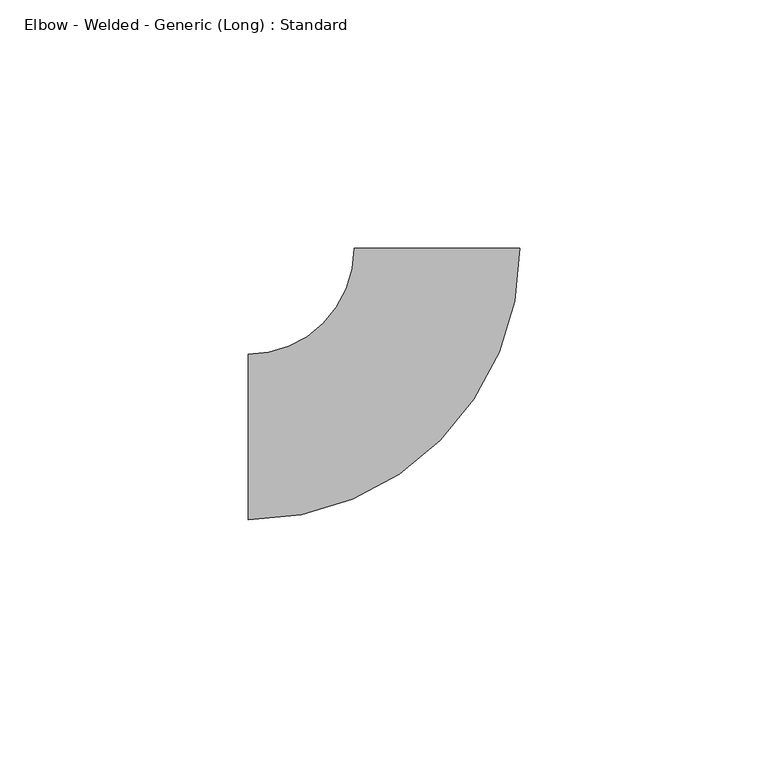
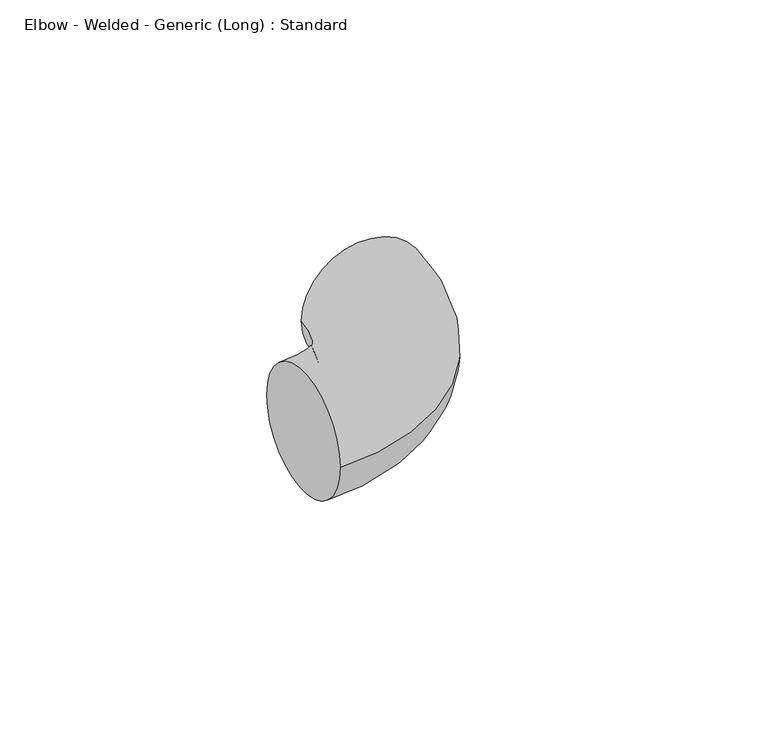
"""IFC4 building model written with IfcOpenShell, lengths in millimetres: pipe fitting geometry, Elbow - Welded - Generic (Long) : Standard."""

from ifc_helpers import new_model, si_unit, point, frame, origin, place, context, project, spatial, circle_curve, ellipse_curve, trimmed, source, transform, mapped, element, save
from ifc_brep_helpers import plane_surface, revolved_surface, advanced_brep


def elbow_welded_generic_long_standard_0bca6b2c(model_context):
    return source(origin(), model_context, "Body", "AdvancedBrep", [
        advanced_brep(
        [(-38.1, -16.66875, 0.0), (-38.1, 16.66875, 0.0), (16.6410441, 38.1121093, 0.0), (-16.6964471, 38.0878705, 0.0)],
        [
            (0, 1, circle_curve(frame((-38.1, 0.0, 0.0), z_axis=(-1.0, 0.0, 0.0), x_axis=(0.0, 1.0, 0.0)), 16.66875)),
            (1, 0, circle_curve(frame((-38.1, 0.0, 0.0), z_axis=(-1.0, 0.0, 0.0), x_axis=(0.0, 1.0, 0.0)), 16.66875)),
            (2, 3, circle_curve(frame((-0.0277015, 38.0999899, 0.0), z_axis=(-0.0007270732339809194, 0.9999997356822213, 0.0), x_axis=(-0.9999997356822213, -0.0007270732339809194, 0.0)), 16.66875)),
            (3, 2, circle_curve(frame((-0.0277015, 38.0999899, 0.0), z_axis=(-0.0007270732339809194, 0.9999997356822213, 0.0), x_axis=(-0.9999997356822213, -0.0007270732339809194, 0.0)), 16.66875)),
            (3, 1, circle_curve(frame((-38.1, 38.0723086, 0.0), z_axis=(0.0, 0.0, -1.0), x_axis=(0.0, -1.0, 0.0)), 21.4035586)),
            (0, 2, circle_curve(frame((-38.1, 38.0723086, 0.0), z_axis=(0.0, 0.0, 1.0), x_axis=(0.0, -1.0, 0.0)), 54.7410586)),
        ],
        [
            plane_surface(frame((-38.1, 0.0, 0.0), z_axis=(-1.0, 0.0, 0.0), x_axis=(0.0, 0.0, 1.0))),
            plane_surface(frame((-0.0277015, 38.0999899, 0.0), z_axis=(-0.0007270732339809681, 0.9999997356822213, 0.0), x_axis=(0.0, 0.0, 1.0))),
            revolved_surface(trimmed(ellipse_curve(frame((-38.1, 0.0, 0.0), z_axis=(-1.0, 0.0, 0.0), x_axis=(0.0, 1.0, 0.0)), 16.66875, 16.66875), [point((-38.1, -16.66875, 0.0))], [point((-38.1, 16.66875, 0.0))], True, "CARTESIAN"), (-38.1, 38.0723086, 0.0), (0.0, 0.0, 1.0)),
            revolved_surface(trimmed(ellipse_curve(frame((-38.1, 0.0, 0.0), z_axis=(-1.0, 0.0, 0.0), x_axis=(0.0, 1.0, 0.0)), 16.66875, 16.66875), [point((-38.1, 16.66875, 0.0))], [point((-38.1, -16.66875, 0.0))], True, "CARTESIAN"), (-38.1, 38.0723086, 0.0), (0.0, 0.0, 1.0)),
        ],
        [
            (0, [[1, 2]]),
            (1, [[3, 4]]),
            (2, [[5, -1, 6, -4]]),
            (3, [[-6, -2, -5, -3]]),
        ],
    ),
    ])


if __name__ == "__main__":
    model = new_model("IFC4")
    model_context = context("Model", 3, world=origin())
    ifc_project = project(units=[si_unit("LENGTHUNIT", "METRE", prefix="MILLI")], contexts=[model_context])
    site = spatial("IfcSite", under=ifc_project)
    building = spatial("IfcBuilding", under=site)
    placement = place(None, origin())
    elbow_welded_generic_long_standard_shape = elbow_welded_generic_long_standard_0bca6b2c(model_context)
    element("IfcPipeFitting", 1, ObjectType="Elbow - Welded - Generic (Long) : Standard", at=placement, inside=building, context=model_context, shape_type="MappedRepresentation", body=[
        mapped(elbow_welded_generic_long_standard_shape, transform((0.0, 0.0, 0.0), x_axis=(1.0, 0.0, 0.0), y_axis=(0.0, 1.0, 0.0), z_axis=(0.0, 0.0, 1.0))),
    ])
    save(model, "model.ifc")
